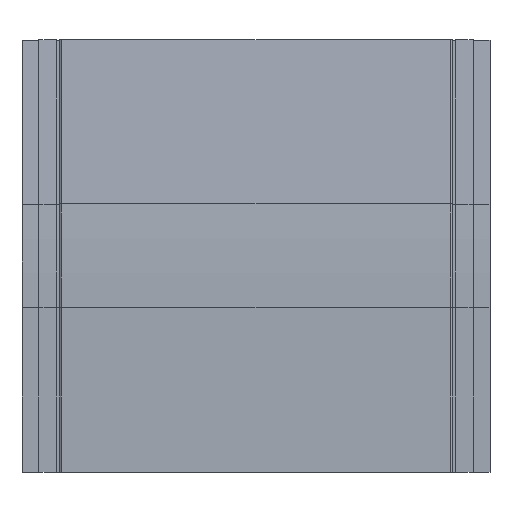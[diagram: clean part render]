
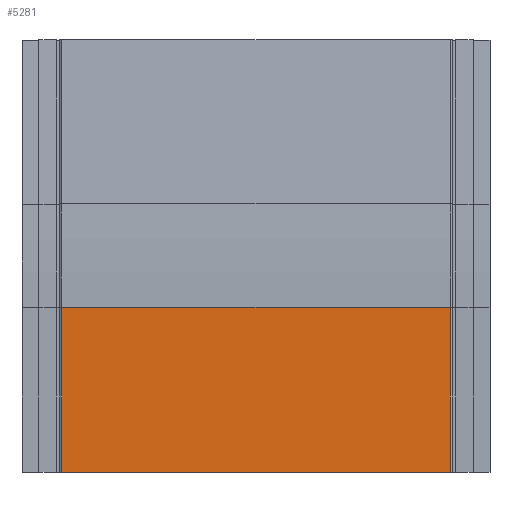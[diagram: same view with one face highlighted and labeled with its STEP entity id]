
A CAD part, front view. The second image highlights one B-rep face of the part: STEP entity #5281.
In plain terms, the highlighted planar face has unit normal (0, -1, 0).
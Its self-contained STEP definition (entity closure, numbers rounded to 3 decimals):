
#99 = EDGE_LOOP ( 'NONE', ( #7286, #1993, #4373, #2474 ) ) ;
#644 = VERTEX_POINT ( 'NONE', #2411 ) ;
#940 = DIRECTION ( 'NONE',  ( 0., 0., -1. ) ) ;
#1044 = AXIS2_PLACEMENT_3D ( 'NONE', #5810, #2751, #3952 ) ;
#1065 = VECTOR ( 'NONE', #940, 1000. ) ;
#1129 = CARTESIAN_POINT ( 'NONE',  ( 94.25, -76.7, 80. ) ) ;
#1200 = EDGE_CURVE ( 'NONE', #7361, #3639, #7144, .T. ) ;
#1693 = CARTESIAN_POINT ( 'NONE',  ( 94.25, -76.7, 80. ) ) ;
#1903 = PLANE ( 'NONE',  #1044 ) ;
#1993 = ORIENTED_EDGE ( 'NONE', *, *, #3104, .F. ) ;
#2411 = CARTESIAN_POINT ( 'NONE',  ( 94.25, -76.7, 80. ) ) ;
#2474 = ORIENTED_EDGE ( 'NONE', *, *, #2945, .T. ) ;
#2696 = LINE ( 'NONE', #1693, #1065 ) ;
#2751 = DIRECTION ( 'NONE',  ( 0., 1., 0. ) ) ;
#2945 = EDGE_CURVE ( 'NONE', #5252, #7361, #7453, .T. ) ;
#3104 = EDGE_CURVE ( 'NONE', #644, #3639, #2696, .T. ) ;
#3639 = VERTEX_POINT ( 'NONE', #4495 ) ;
#3952 = DIRECTION ( 'NONE',  ( 0., 0., 1. ) ) ;
#4073 = DIRECTION ( 'NONE',  ( 1., 0., 0. ) ) ;
#4325 = VECTOR ( 'NONE', #4073, 1000. ) ;
#4373 = ORIENTED_EDGE ( 'NONE', *, *, #7920, .F. ) ;
#4461 = CARTESIAN_POINT ( 'NONE',  ( -94.25, -76.7, 80. ) ) ;
#4495 = CARTESIAN_POINT ( 'NONE',  ( 94.25, -76.7, 0. ) ) ;
#4615 = DIRECTION ( 'NONE',  ( 0., 0., -1. ) ) ;
#4779 = CARTESIAN_POINT ( 'NONE',  ( 94.25, -76.7, 0. ) ) ;
#5252 = VERTEX_POINT ( 'NONE', #4461 ) ;
#5281 = ADVANCED_FACE ( 'NONE', ( #6882 ), #1903, .F. ) ;
#5747 = CARTESIAN_POINT ( 'NONE',  ( -94.25, -76.7, 80. ) ) ;
#5810 = CARTESIAN_POINT ( 'NONE',  ( 94.25, -76.7, 80. ) ) ;
#6021 = DIRECTION ( 'NONE',  ( 1., 0., 0. ) ) ;
#6070 = CARTESIAN_POINT ( 'NONE',  ( -94.25, -76.7, 0. ) ) ;
#6148 = VECTOR ( 'NONE', #6021, 1000. ) ;
#6882 = FACE_OUTER_BOUND ( 'NONE', #99, .T. ) ;
#6965 = VECTOR ( 'NONE', #4615, 1000. ) ;
#7144 = LINE ( 'NONE', #4779, #4325 ) ;
#7286 = ORIENTED_EDGE ( 'NONE', *, *, #1200, .T. ) ;
#7361 = VERTEX_POINT ( 'NONE', #6070 ) ;
#7453 = LINE ( 'NONE', #5747, #6965 ) ;
#7782 = LINE ( 'NONE', #1129, #6148 ) ;
#7920 = EDGE_CURVE ( 'NONE', #5252, #644, #7782, .T. ) ;
